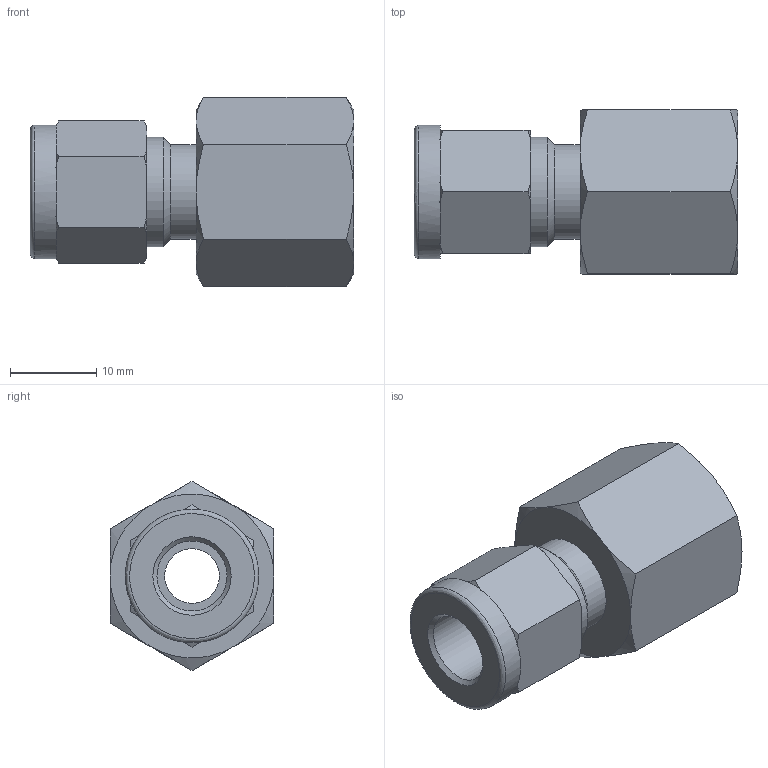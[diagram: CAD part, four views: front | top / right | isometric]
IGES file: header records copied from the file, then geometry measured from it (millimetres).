
Global section: file name: SFC-5-4N; native system: Autodesk Inventor 2016; preprocessor: unknown; author: 배성훈,,11,0; organization: 20151010.045257; date: 20151019.102335; units: millimetre
Bounding box: 37.57 x 19.05 x 22 mm (x, y, z)
Volume: 5676.4 mm3; surface area: 3874 mm2
Topology: 1 solids, 1 shells, 59 faces, 146 edges, 92 vertices
Faces by surface type: bspline 59
